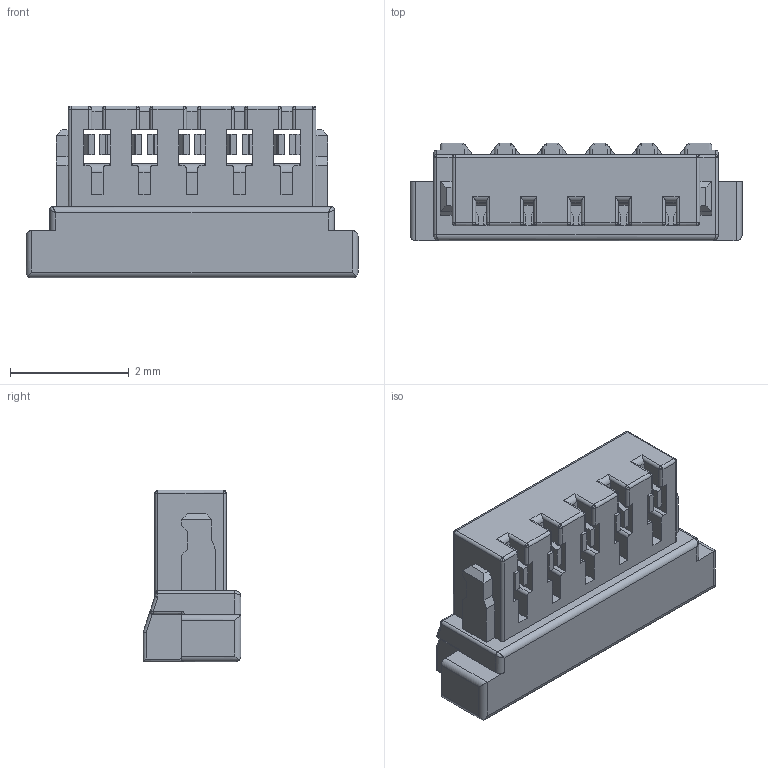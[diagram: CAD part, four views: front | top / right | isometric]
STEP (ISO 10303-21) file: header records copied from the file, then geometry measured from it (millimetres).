
FILE_DESCRIPTION((''),'2;1');
FILE_NAME('SCT0800HI-05','2023-03-21T23:17:02',('Administrator'),(''),'CREO PARAMETRIC BY PTC INC, 2018050','CREO PARAMETRIC BY PTC INC, 2018050','');
FILE_SCHEMA(('CONFIG_CONTROL_DESIGN'));
Length unit declared in the file: millimetre
Products named in the file (1): SCT0800HI-05
Bounding box: 5.6 x 1.65 x 2.9 mm (x, y, z)
Volume: 12.8 mm3; surface area: 93.1 mm2
Topology: 1 solids, 1 shells, 946 faces, 2731 edges, 1711 vertices
Faces by surface type: plane 623, cylinder 283, sphere 36, bspline 3, torus 1
Entity records: 30879 total; most frequent: CARTESIAN_POINT 5881, ORIENTED_EDGE 5410, DIRECTION 5060, EDGE_CURVE 2705, VECTOR 2100, LINE 2100, VERTEX_POINT 1711, AXIS2_PLACEMENT_3D 1480
